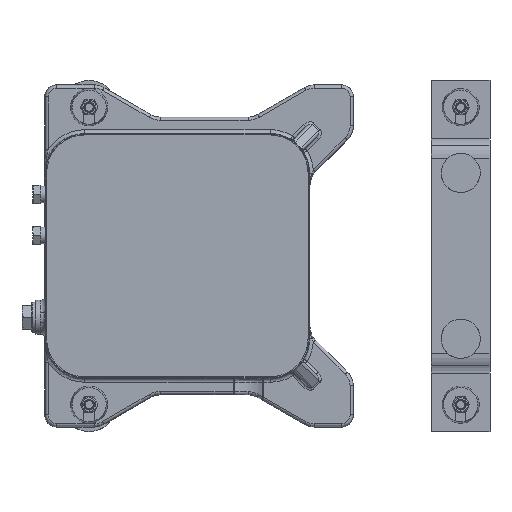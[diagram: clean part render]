
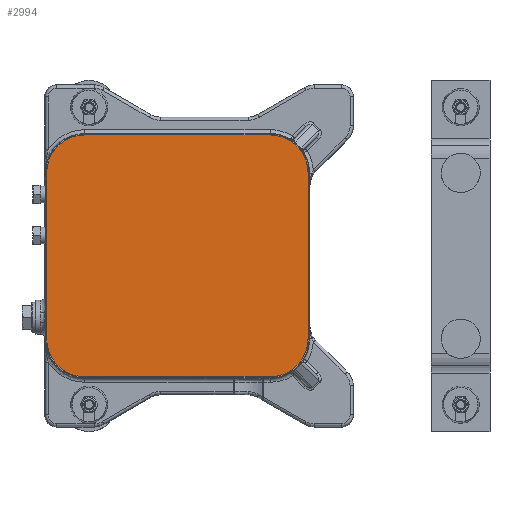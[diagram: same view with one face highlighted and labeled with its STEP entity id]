
A CAD part, top view. The second image highlights one B-rep face of the part: STEP entity #2994.
In plain terms, the highlighted planar face has unit normal (0, 0, 1).
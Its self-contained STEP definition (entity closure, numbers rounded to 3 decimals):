
#2994=ADVANCED_FACE('',(#4783),#4243,.T.);
#4243=PLANE('',#19505);
#4783=FACE_OUTER_BOUND('',#5717,.T.);
#5717=EDGE_LOOP('',(#9371,#9372,#9373,#9374,#9375,#9376,#9377,#9378));
#7289=LINE('',#27136,#8330);
#7290=LINE('',#27140,#8331);
#7291=LINE('',#27144,#8332);
#7292=LINE('',#27148,#8333);
#8330=VECTOR('',#21701,1.);
#8331=VECTOR('',#21704,1.);
#8332=VECTOR('',#21707,1.);
#8333=VECTOR('',#21710,1.);
#9371=ORIENTED_EDGE('',*,*,#16039,.T.);
#9372=ORIENTED_EDGE('',*,*,#16040,.T.);
#9373=ORIENTED_EDGE('',*,*,#16041,.T.);
#9374=ORIENTED_EDGE('',*,*,#16042,.T.);
#9375=ORIENTED_EDGE('',*,*,#16043,.T.);
#9376=ORIENTED_EDGE('',*,*,#16044,.T.);
#9377=ORIENTED_EDGE('',*,*,#16045,.T.);
#9378=ORIENTED_EDGE('',*,*,#16046,.T.);
#14413=VERTEX_POINT('',#27134);
#14414=VERTEX_POINT('',#27135);
#14415=VERTEX_POINT('',#27137);
#14416=VERTEX_POINT('',#27139);
#14417=VERTEX_POINT('',#27141);
#14418=VERTEX_POINT('',#27143);
#14419=VERTEX_POINT('',#27145);
#14420=VERTEX_POINT('',#27147);
#16039=EDGE_CURVE('',#14413,#14414,#18560,.T.);
#16040=EDGE_CURVE('',#14414,#14415,#7289,.T.);
#16041=EDGE_CURVE('',#14415,#14416,#18561,.T.);
#16042=EDGE_CURVE('',#14416,#14417,#7290,.T.);
#16043=EDGE_CURVE('',#14417,#14418,#18562,.T.);
#16044=EDGE_CURVE('',#14418,#14419,#7291,.T.);
#16045=EDGE_CURVE('',#14419,#14420,#18563,.T.);
#16046=EDGE_CURVE('',#14420,#14413,#7292,.T.);
#18560=CIRCLE('',#19501,39.);
#18561=CIRCLE('',#19502,39.);
#18562=CIRCLE('',#19503,39.);
#18563=CIRCLE('',#19504,39.);
#19501=AXIS2_PLACEMENT_3D('',#27133,#21699,#21700);
#19502=AXIS2_PLACEMENT_3D('',#27138,#21702,#21703);
#19503=AXIS2_PLACEMENT_3D('',#27142,#21705,#21706);
#19504=AXIS2_PLACEMENT_3D('',#27146,#21708,#21709);
#19505=AXIS2_PLACEMENT_3D('',#27149,#21711,#21712);
#21699=DIRECTION('',(0.,0.,1.));
#21700=DIRECTION('',(1.,0.,0.));
#21701=DIRECTION('',(0.,-1.,0.));
#21702=DIRECTION('',(0.,0.,1.));
#21703=DIRECTION('',(1.,0.,0.));
#21704=DIRECTION('',(1.,0.,0.));
#21705=DIRECTION('',(0.,0.,1.));
#21706=DIRECTION('',(1.,0.,0.));
#21707=DIRECTION('',(0.,1.,0.));
#21708=DIRECTION('',(0.,0.,1.));
#21709=DIRECTION('',(1.,0.,0.));
#21710=DIRECTION('',(-1.,0.,0.));
#21711=DIRECTION('',(0.,0.,1.));
#21712=DIRECTION('',(1.,0.,0.));
#27133=CARTESIAN_POINT('',(-217.5,85.,-144.));
#27134=CARTESIAN_POINT('',(-217.5,124.,-144.));
#27135=CARTESIAN_POINT('',(-256.5,85.,-144.));
#27136=CARTESIAN_POINT('',(-256.5,124.,-144.));
#27137=CARTESIAN_POINT('',(-256.5,-85.,-144.));
#27138=CARTESIAN_POINT('',(-217.5,-85.,-144.));
#27139=CARTESIAN_POINT('',(-217.5,-124.,-144.));
#27140=CARTESIAN_POINT('',(11.5,-124.,-144.));
#27141=CARTESIAN_POINT('',(-27.5,-124.,-144.));
#27142=CARTESIAN_POINT('',(-27.5,-85.,-144.));
#27143=CARTESIAN_POINT('',(11.5,-85.,-144.));
#27144=CARTESIAN_POINT('',(11.5,124.,-144.));
#27145=CARTESIAN_POINT('',(11.5,85.,-144.));
#27146=CARTESIAN_POINT('',(-27.5,85.,-144.));
#27147=CARTESIAN_POINT('',(-27.5,124.,-144.));
#27148=CARTESIAN_POINT('',(11.5,124.,-144.));
#27149=CARTESIAN_POINT('',(11.5,124.,-144.));
